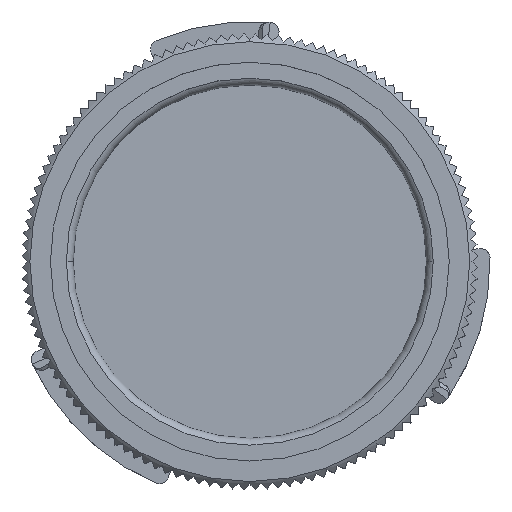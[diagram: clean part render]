
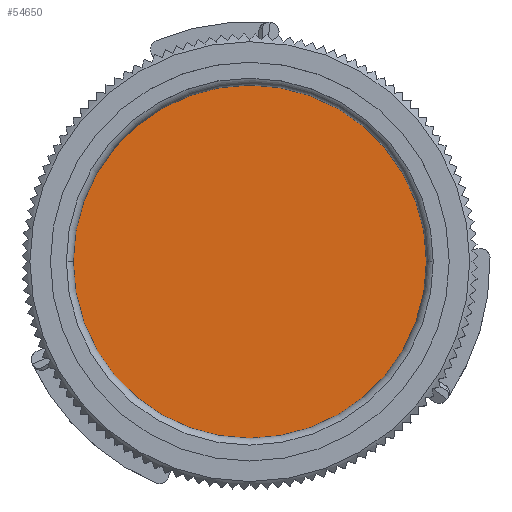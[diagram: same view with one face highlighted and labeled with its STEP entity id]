
A CAD part, top view. The second image highlights one B-rep face of the part: STEP entity #54650.
In plain terms, the highlighted planar face has unit normal (0, 0, 1).
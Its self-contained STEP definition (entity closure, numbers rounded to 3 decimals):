
#21461=CARTESIAN_POINT('',(0.,0.,-4.));
#21462=DIRECTION('',(0.,0.,1.));
#21463=DIRECTION('',(-1.,0.,0.));
#21464=AXIS2_PLACEMENT_3D('',#21461,#21462,#21463);
#21466=CARTESIAN_POINT('',(0.,0.,-4.));
#21467=DIRECTION('',(0.,0.,1.));
#21468=DIRECTION('',(1.,0.,0.));
#21469=AXIS2_PLACEMENT_3D('',#21466,#21467,#21468);
#23568=CARTESIAN_POINT('',(-15.634,0.,-4.));
#23569=CARTESIAN_POINT('',(15.634,0.,-4.));
#23570=VERTEX_POINT('',#23568);
#23571=VERTEX_POINT('',#23569);
#54641=CARTESIAN_POINT('',(0.,0.,-4.));
#54642=DIRECTION('',(0.,0.,1.));
#54643=DIRECTION('',(0.,-1.,0.));
#54644=AXIS2_PLACEMENT_3D('',#54641,#54642,#54643);
#54645=PLANE('',#54644);
#54646=ORIENTED_EDGE('',*,*,#54608,.F.);
#54647=ORIENTED_EDGE('',*,*,#54623,.F.);
#54648=EDGE_LOOP('',(#54646,#54647));
#54649=FACE_OUTER_BOUND('',#54648,.F.);
#54650=ADVANCED_FACE('',(#54649),#54645,.T.);
#21465=CIRCLE('',#21464,15.634);
#21470=CIRCLE('',#21469,15.634);
#54608=EDGE_CURVE('',#23570,#23571,#21465,.T.);
#54623=EDGE_CURVE('',#23571,#23570,#21470,.T.);
